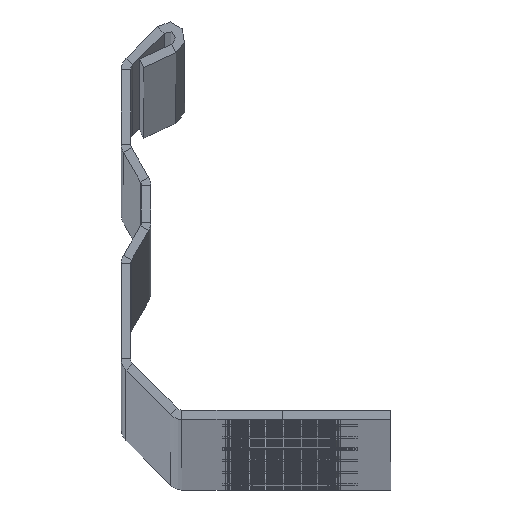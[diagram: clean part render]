
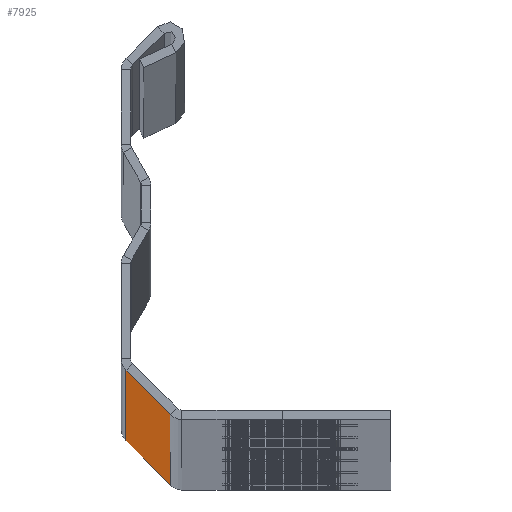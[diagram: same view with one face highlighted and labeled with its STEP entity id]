
A CAD part, top view. The second image highlights one B-rep face of the part: STEP entity #7925.
In plain terms, the highlighted planar face has unit normal (-0.707, -0.707, 0).
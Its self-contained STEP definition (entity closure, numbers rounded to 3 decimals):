
#36 = VERTEX_POINT ( 'NONE', #13908 ) ;
#1053 = VECTOR ( 'NONE', #3333, 1000. ) ;
#1406 = VECTOR ( 'NONE', #9604, 1000. ) ;
#1557 = DIRECTION ( 'NONE',  ( -0.707, -0.707, 0. ) ) ;
#2077 = LINE ( 'NONE', #10877, #4481 ) ;
#2502 = VERTEX_POINT ( 'NONE', #8954 ) ;
#2956 = EDGE_CURVE ( 'NONE', #2502, #3679, #2077, .T. ) ;
#3333 = DIRECTION ( 'NONE',  ( 0., 0., -1. ) ) ;
#3467 = CARTESIAN_POINT ( 'NONE',  ( 4., 0., -1500. ) ) ;
#3542 = LINE ( 'NONE', #9007, #11855 ) ;
#3679 = VERTEX_POINT ( 'NONE', #6662 ) ;
#3905 = CARTESIAN_POINT ( 'NONE',  ( 4., 0., 1500. ) ) ;
#4192 = ORIENTED_EDGE ( 'NONE', *, *, #7423, .F. ) ;
#4481 = VECTOR ( 'NONE', #15779, 1000. ) ;
#5130 = PLANE ( 'NONE',  #13382 ) ;
#5330 = ORIENTED_EDGE ( 'NONE', *, *, #8445, .F. ) ;
#6612 = EDGE_LOOP ( 'NONE', ( #4192, #5330, #15619, #6658 ) ) ;
#6658 = ORIENTED_EDGE ( 'NONE', *, *, #7038, .T. ) ;
#6662 = CARTESIAN_POINT ( 'NONE',  ( 0.351, 3.649, 1500. ) ) ;
#6807 = CARTESIAN_POINT ( 'NONE',  ( 0.351, 3.649, -1500. ) ) ;
#7038 = EDGE_CURVE ( 'NONE', #3679, #14545, #13443, .T. ) ;
#7423 = EDGE_CURVE ( 'NONE', #36, #14545, #12047, .T. ) ;
#7778 = DIRECTION ( 'NONE',  ( 0., 0., -1. ) ) ;
#7925 = ADVANCED_FACE ( 'NONE', ( #9954 ), #5130, .T. ) ;
#8445 = EDGE_CURVE ( 'NONE', #2502, #36, #3542, .T. ) ;
#8954 = CARTESIAN_POINT ( 'NONE',  ( 3.649, 0.351, 1500. ) ) ;
#9007 = CARTESIAN_POINT ( 'NONE',  ( 3.649, 0.351, 1500. ) ) ;
#9604 = DIRECTION ( 'NONE',  ( -0.707, 0.707, 0. ) ) ;
#9954 = FACE_OUTER_BOUND ( 'NONE', #6612, .T. ) ;
#10877 = CARTESIAN_POINT ( 'NONE',  ( 4., 0., 1500. ) ) ;
#11263 = DIRECTION ( 'NONE',  ( 0.707, -0.707, 0. ) ) ;
#11855 = VECTOR ( 'NONE', #7778, 1000. ) ;
#12047 = LINE ( 'NONE', #3467, #1406 ) ;
#12217 = CARTESIAN_POINT ( 'NONE',  ( 0.351, 3.649, 1500. ) ) ;
#13382 = AXIS2_PLACEMENT_3D ( 'NONE', #3905, #1557, #11263 ) ;
#13443 = LINE ( 'NONE', #12217, #1053 ) ;
#13908 = CARTESIAN_POINT ( 'NONE',  ( 3.649, 0.351, -1500. ) ) ;
#14545 = VERTEX_POINT ( 'NONE', #6807 ) ;
#15619 = ORIENTED_EDGE ( 'NONE', *, *, #2956, .T. ) ;
#15779 = DIRECTION ( 'NONE',  ( -0.707, 0.707, 0. ) ) ;
